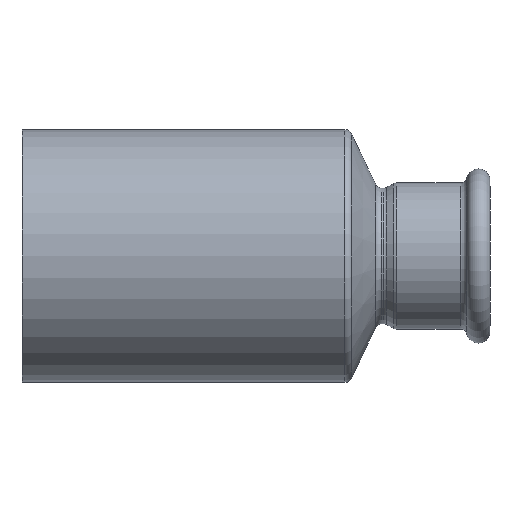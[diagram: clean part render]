
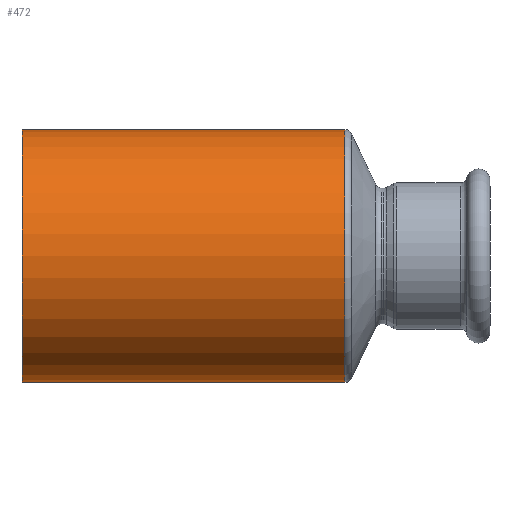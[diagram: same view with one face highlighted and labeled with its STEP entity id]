
A CAD part, front view. The second image highlights one B-rep face of the part: STEP entity #472.
In plain terms, the highlighted cylindrical face has radius 27 mm (diameter 54 mm), a partial arc.
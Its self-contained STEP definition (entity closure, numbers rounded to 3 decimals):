
#7 = ORIENTED_EDGE ( 'NONE', *, *, #922, .T. ) ;
#69 = ORIENTED_EDGE ( 'NONE', *, *, #896, .F. ) ;
#83 = ORIENTED_EDGE ( 'NONE', *, *, #949, .F. ) ;
#86 = VERTEX_POINT ( 'NONE', #248 ) ;
#100 = VERTEX_POINT ( 'NONE', #236 ) ;
#134 = CARTESIAN_POINT ( 'NONE',  ( -53.513, 0., 0. ) ) ;
#203 = CARTESIAN_POINT ( 'NONE',  ( 14.512, 0., 27. ) ) ;
#225 = DIRECTION ( 'NONE',  ( 0., 0., 1. ) ) ;
#236 = CARTESIAN_POINT ( 'NONE',  ( -54.488, 0., 27. ) ) ;
#242 = AXIS2_PLACEMENT_3D ( 'NONE', #416, #958, #572 ) ;
#248 = CARTESIAN_POINT ( 'NONE',  ( -54.488, 0., -27. ) ) ;
#251 = AXIS2_PLACEMENT_3D ( 'NONE', #134, #347, #894 ) ;
#299 = CARTESIAN_POINT ( 'NONE',  ( -53.513, 0., 27. ) ) ;
#347 = DIRECTION ( 'NONE',  ( -1., 0., 0. ) ) ;
#408 = AXIS2_PLACEMENT_3D ( 'NONE', #592, #1153, #225 ) ;
#416 = CARTESIAN_POINT ( 'NONE',  ( 14.512, 0., 0. ) ) ;
#440 = EDGE_LOOP ( 'NONE', ( #83, #869, #7, #69 ) ) ;
#472 = ADVANCED_FACE ( 'NONE', ( #986 ), #528, .T. ) ;
#528 = CYLINDRICAL_SURFACE ( 'NONE', #251, 27. ) ;
#572 = DIRECTION ( 'NONE',  ( 0., 0., -1. ) ) ;
#592 = CARTESIAN_POINT ( 'NONE',  ( -54.488, 0., 0. ) ) ;
#612 = CIRCLE ( 'NONE', #242, 27. ) ;
#742 = VECTOR ( 'NONE', #945, 1000. ) ;
#752 = DIRECTION ( 'NONE',  ( -1., 0., 0. ) ) ;
#863 = VERTEX_POINT ( 'NONE', #873 ) ;
#869 = ORIENTED_EDGE ( 'NONE', *, *, #1012, .T. ) ;
#873 = CARTESIAN_POINT ( 'NONE',  ( 14.512, 0., -27. ) ) ;
#894 = DIRECTION ( 'NONE',  ( 0., 0., 1. ) ) ;
#896 = EDGE_CURVE ( 'NONE', #86, #100, #1132, .T. ) ;
#922 = EDGE_CURVE ( 'NONE', #936, #100, #1056, .T. ) ;
#930 = VECTOR ( 'NONE', #752, 1000. ) ;
#936 = VERTEX_POINT ( 'NONE', #203 ) ;
#945 = DIRECTION ( 'NONE',  ( -1., 0., 0. ) ) ;
#949 = EDGE_CURVE ( 'NONE', #863, #86, #1043, .T. ) ;
#958 = DIRECTION ( 'NONE',  ( -1., 0., 0. ) ) ;
#986 = FACE_OUTER_BOUND ( 'NONE', #440, .T. ) ;
#1012 = EDGE_CURVE ( 'NONE', #863, #936, #612, .T. ) ;
#1043 = LINE ( 'NONE', #1146, #742 ) ;
#1056 = LINE ( 'NONE', #299, #930 ) ;
#1132 = CIRCLE ( 'NONE', #408, 27. ) ;
#1146 = CARTESIAN_POINT ( 'NONE',  ( -53.513, 0., -27. ) ) ;
#1153 = DIRECTION ( 'NONE',  ( -1., 0., 0. ) ) ;
